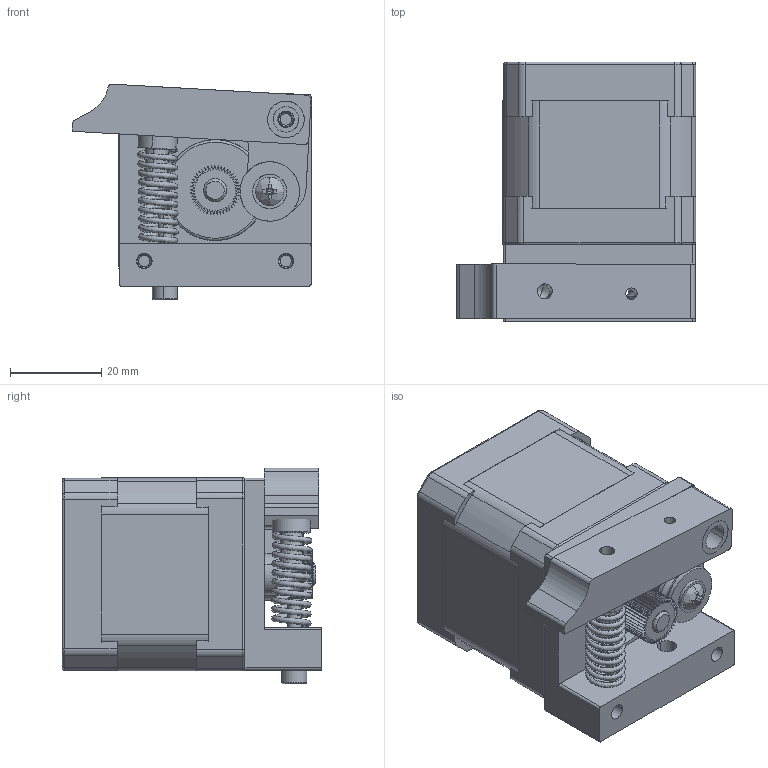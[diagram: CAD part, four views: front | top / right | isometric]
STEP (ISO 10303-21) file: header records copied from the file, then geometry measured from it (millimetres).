
FILE_DESCRIPTION(/* description */ (''),/* implementation_level */ '2;1');
FILE_NAME(/* name */ 'EXTRUS~2',/* time_stamp */ '2019-04-01T20:08:29-03:00',/* author */ (''),/* organization */ (''),/* preprocessor_version */ 'ST-DEVELOPER v16.5',/* originating_system */ '',/* authorisation */ '');
FILE_SCHEMA (('AUTOMOTIVE_DESIGN'));
Length unit declared in the file: millimetre
Products named in the file (1): Document
Bounding box: 52.42 x 56.8 x 47.21 mm (x, y, z)
Volume: 69944.6 mm3; surface area: 36384.3 mm2
Topology: 19 solids, 19 shells, 749 faces, 1870 edges, 1167 vertices
Faces by surface type: plane 394, bspline 355
Entity records: 32103 total; most frequent: CARTESIAN_POINT 20613, ORIENTED_EDGE 3712, EDGE_CURVE 1856, VERTEX_POINT 1167, B_SPLINE_CURVE_WITH_KNOTS 1078, EDGE_LOOP 833, ADVANCED_FACE 749, FACE_OUTER_BOUND 749
